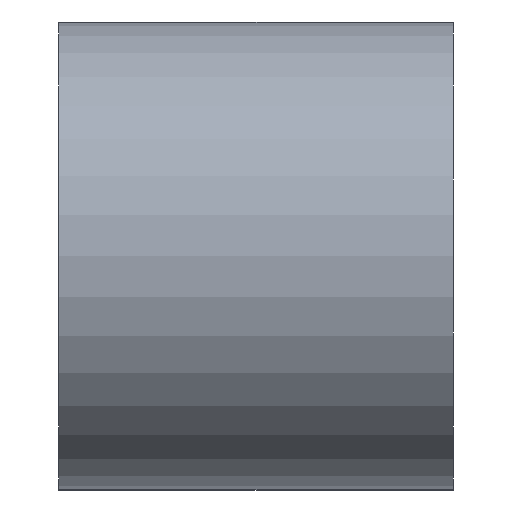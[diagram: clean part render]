
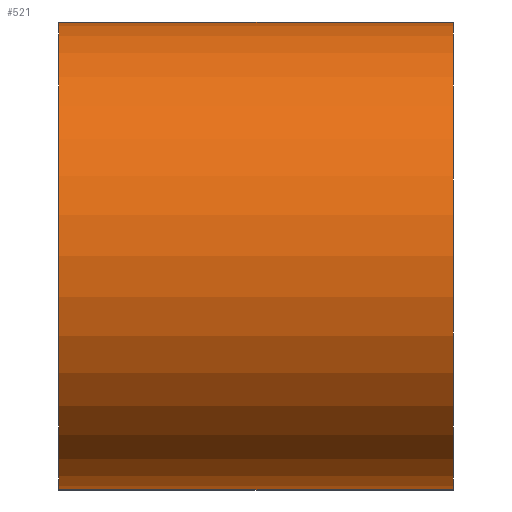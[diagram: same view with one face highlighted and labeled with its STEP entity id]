
A CAD part, left-side view. The second image highlights one B-rep face of the part: STEP entity #521.
In plain terms, the highlighted cylindrical face has radius 8.039 mm (diameter 16.078 mm), a partial arc.
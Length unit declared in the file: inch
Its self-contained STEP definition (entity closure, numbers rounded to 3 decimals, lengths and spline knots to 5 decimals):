
#35 = ORIENTED_EDGE ( 'NONE', *, *, #237, .F. ) ;
#57 = ORIENTED_EDGE ( 'NONE', *, *, #105, .F. ) ;
#91 = CIRCLE ( 'NONE', #417, 0.3165 ) ;
#98 = DIRECTION ( 'NONE',  ( 0., 0., -1. ) ) ;
#105 = EDGE_CURVE ( 'NONE', #178, #316, #520, .T. ) ;
#150 = VERTEX_POINT ( 'NONE', #359 ) ;
#174 = DIRECTION ( 'NONE',  ( 0., -1., 0. ) ) ;
#178 = VERTEX_POINT ( 'NONE', #368 ) ;
#181 = AXIS2_PLACEMENT_3D ( 'NONE', #307, #317, #98 ) ;
#200 = EDGE_LOOP ( 'NONE', ( #497, #296, #35, #57 ) ) ;
#237 = EDGE_CURVE ( 'NONE', #316, #429, #374, .T. ) ;
#250 = CARTESIAN_POINT ( 'NONE',  ( -1.26, 0.433, -0.3165 ) ) ;
#273 = LINE ( 'NONE', #250, #522 ) ;
#280 = CARTESIAN_POINT ( 'NONE',  ( -1.26, 0.433, 0.3165 ) ) ;
#281 = DIRECTION ( 'NONE',  ( 1., 0., 0. ) ) ;
#296 = ORIENTED_EDGE ( 'NONE', *, *, #518, .F. ) ;
#307 = CARTESIAN_POINT ( 'NONE',  ( -1.26, 0.433, 0. ) ) ;
#316 = VERTEX_POINT ( 'NONE', #280 ) ;
#317 = DIRECTION ( 'NONE',  ( 0., -1., 0. ) ) ;
#328 = VECTOR ( 'NONE', #333, 39.37008 ) ;
#333 = DIRECTION ( 'NONE',  ( 0., -1., 0. ) ) ;
#337 = DIRECTION ( 'NONE',  ( 0., 0., -1. ) ) ;
#359 = CARTESIAN_POINT ( 'NONE',  ( -1.26, -0.1, -0.3165 ) ) ;
#368 = CARTESIAN_POINT ( 'NONE',  ( -1.26, 0.433, -0.3165 ) ) ;
#374 = LINE ( 'NONE', #559, #328 ) ;
#386 = CYLINDRICAL_SURFACE ( 'NONE', #181, 0.3165 ) ;
#408 = CARTESIAN_POINT ( 'NONE',  ( -1.26, 0.433, 0. ) ) ;
#417 = AXIS2_PLACEMENT_3D ( 'NONE', #427, #174, #337 ) ;
#426 = EDGE_CURVE ( 'NONE', #178, #150, #273, .T. ) ;
#427 = CARTESIAN_POINT ( 'NONE',  ( -1.26, -0.1, 0. ) ) ;
#429 = VERTEX_POINT ( 'NONE', #487 ) ;
#443 = DIRECTION ( 'NONE',  ( 0., -1., 0. ) ) ;
#450 = AXIS2_PLACEMENT_3D ( 'NONE', #408, #483, #281 ) ;
#471 = FACE_OUTER_BOUND ( 'NONE', #200, .T. ) ;
#483 = DIRECTION ( 'NONE',  ( 0., 1., 0. ) ) ;
#487 = CARTESIAN_POINT ( 'NONE',  ( -1.26, -0.1, 0.3165 ) ) ;
#497 = ORIENTED_EDGE ( 'NONE', *, *, #426, .T. ) ;
#518 = EDGE_CURVE ( 'NONE', #429, #150, #91, .T. ) ;
#520 = CIRCLE ( 'NONE', #450, 0.3165 ) ;
#521 = ADVANCED_FACE ( 'NONE', ( #471 ), #386, .T. ) ;
#522 = VECTOR ( 'NONE', #443, 39.37008 ) ;
#559 = CARTESIAN_POINT ( 'NONE',  ( -1.26, 0.433, 0.3165 ) ) ;
